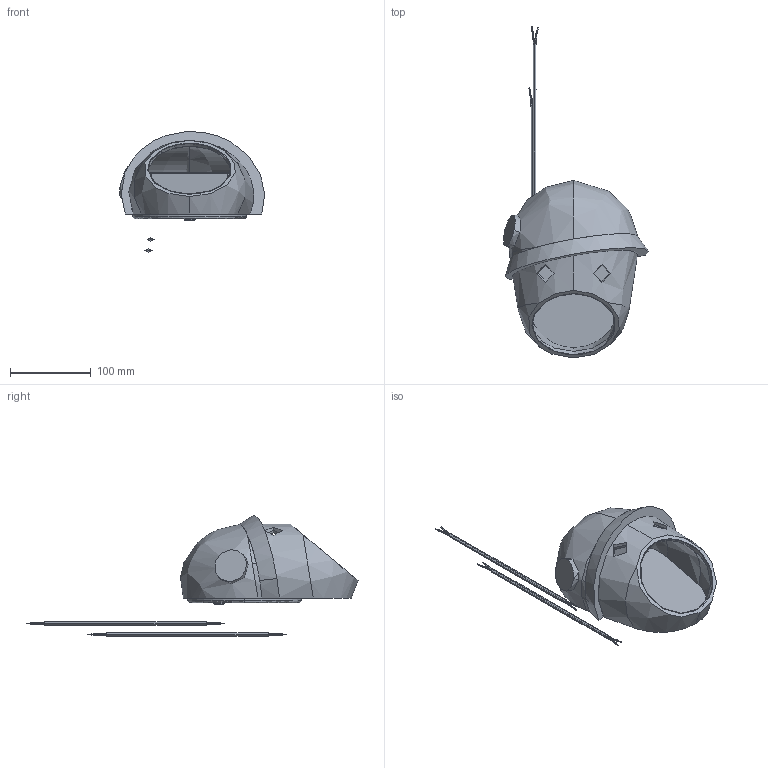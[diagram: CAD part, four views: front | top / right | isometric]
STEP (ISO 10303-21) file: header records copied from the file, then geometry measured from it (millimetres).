
FILE_DESCRIPTION (( 'STEP AP214' ), '1' );
FILE_NAME ('A000924_Creations_Default_COCO_19-10-2018.step', '2018-10-19T07:16:52', ( '' ), ( '' ), 'SwSTEP 2.0', 'SolidWorks 2017', '' );
FILE_SCHEMA (( 'AUTOMOTIVE_DESIGN' ));
Length unit declared in the file: millimetre
Products named in the file (21): P002654; P002375; P000480; EN ISO 10642 - M3 x 16 - 16N_EN ISO 10642 - M3 x 16 - 16N; P002653; P002709_120-14-C0450-TL; P002522; P002592; A000915; A000924_Creations_Default_COCO_19-10-2018; P002521; ISO 7380 - M3 x 10 - 10N_ISO 7380 - M3 x 10 - 10N; DIN 985 - M3 - N; P002326; P002659; DIN EN ISO 7045 - M3 x 8 - Z - 8N_DIN EN ISO 7045 - M3 x 8 - Z - 8N; P002221; DIN 6797-A3.2_DIN 6797-A3.2; P001935; P000780; P002325
Assembly tree (34 placements, depth 3):
  A000924_Creations_Default_COCO_19-10-2018
    P002592
    A000915
      P002326
      P002521
      P002522
      P002653
      P002654
      P002221
      P000480
      P001935  x3
      P002325
      P002709_120-14-C0450-TL
      DIN 985 - M3 - N  x8
      P002659
      P000780
      EN ISO 10642 - M3 x 16 - 16N_EN ISO 10642 - M3 x 16 - 16N  x4
      P002375  x2
      ISO 7380 - M3 x 10 - 10N_ISO 7380 - M3 x 10 - 10N  x2
      DIN 6797-A3.2_DIN 6797-A3.2
      DIN EN ISO 7045 - M3 x 8 - Z - 8N_DIN EN ISO 7045 - M3 x 8 - Z - 8N
Bounding box: 179.58 x 409.92 x 149.19 mm (x, y, z)
Volume: 749362.4 mm3; surface area: 287000.6 mm2
Topology: 43 solids, 45 shells, 1759 faces, 4369 edges, 2762 vertices
Faces by surface type: plane 856, cylinder 430, bspline 228, cone 187, torus 48, sphere 10
Entity records: 64297 total; most frequent: CARTESIAN_POINT 35911, ORIENTED_EDGE 5770, DIRECTION 4941, EDGE_CURVE 2885, VERTEX_POINT 1862, VECTOR 1691, LINE 1691, AXIS2_PLACEMENT_3D 1625
